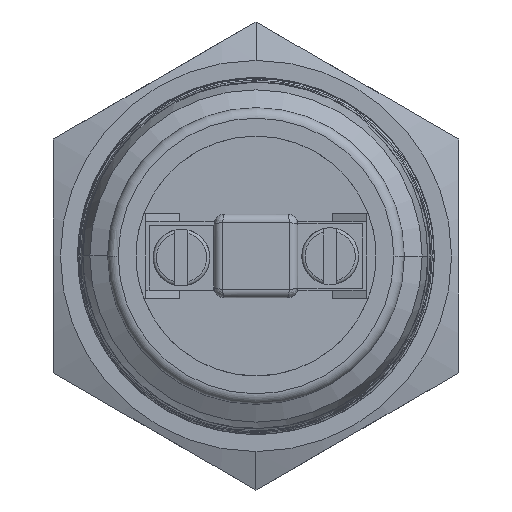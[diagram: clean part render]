
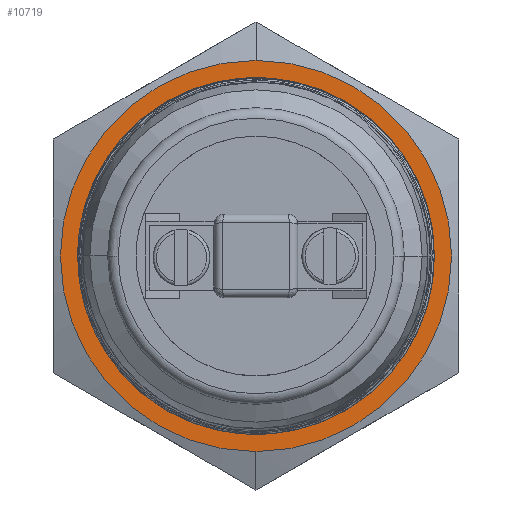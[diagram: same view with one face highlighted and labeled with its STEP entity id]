
A CAD part, front view. The second image highlights one B-rep face of the part: STEP entity #10719.
In plain terms, the highlighted planar face has unit normal (0, -1, 0).
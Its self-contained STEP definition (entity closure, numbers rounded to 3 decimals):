
#1523=CARTESIAN_POINT('',(0.,7.4,0.));
#1524=DIRECTION('',(0.,1.,0.));
#1525=DIRECTION('',(0.,0.,1.));
#1526=AXIS2_PLACEMENT_3D('',#1523,#1524,#1525);
#1528=CARTESIAN_POINT('',(0.,7.4,0.));
#1529=DIRECTION('',(0.,1.,0.));
#1530=DIRECTION('',(0.,0.,-1.));
#1531=AXIS2_PLACEMENT_3D('',#1528,#1529,#1530);
#7456=CARTESIAN_POINT('',(0.,7.4,
12.065));
#7457=CARTESIAN_POINT('',(0.,7.4,
-12.065));
#7458=VERTEX_POINT('',#7456);
#7459=VERTEX_POINT('',#7457);
#10708=CARTESIAN_POINT('',(0.,7.4,0.));
#10709=DIRECTION('',(0.,-1.,0.));
#10710=DIRECTION('',(1.,0.,0.));
#10711=AXIS2_PLACEMENT_3D('',#10708,#10709,#10710);
#10712=PLANE('',#10711);
#10714=ORIENTED_EDGE('',*,*,#10713,.T.);
#10716=ORIENTED_EDGE('',*,*,#10715,.T.);
#10717=EDGE_LOOP('',(#10714,#10716));
#10718=FACE_OUTER_BOUND('',#10717,.F.);
#10719=ADVANCED_FACE('',(#10718),#10712,.T.);
#1527=CIRCLE('',#1526,12.065);
#1532=CIRCLE('',#1531,12.065);
#10713=EDGE_CURVE('',#7458,#7459,#1527,.T.);
#10715=EDGE_CURVE('',#7459,#7458,#1532,.T.);
